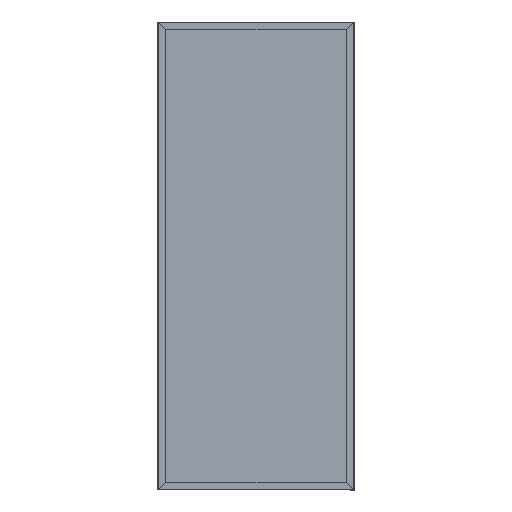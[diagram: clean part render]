
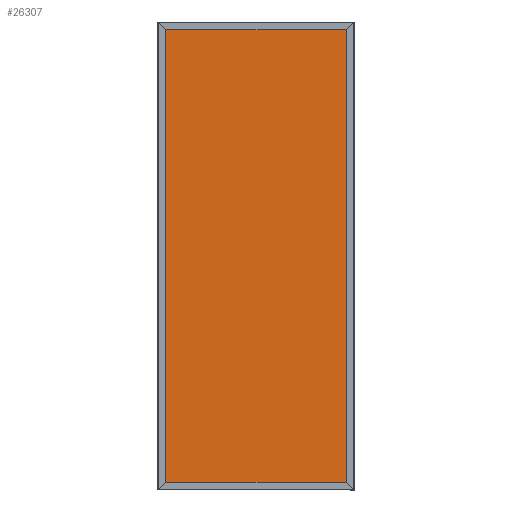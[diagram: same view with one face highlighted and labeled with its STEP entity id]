
A CAD part, top view. The second image highlights one B-rep face of the part: STEP entity #26307.
In plain terms, the highlighted planar face has unit normal (0, 0, 1).
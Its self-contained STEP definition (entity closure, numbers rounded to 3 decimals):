
#1143 = DIRECTION ( 'NONE',  ( -1., 0., 0. ) ) ;
#1513 = VECTOR ( 'NONE', #24720, 1000. ) ;
#2418 = CARTESIAN_POINT ( 'NONE',  ( 465.07, 0., -13.25 ) ) ;
#4483 = VERTEX_POINT ( 'NONE', #24362 ) ;
#6235 = VECTOR ( 'NONE', #22124, 1000. ) ;
#6571 = LINE ( 'NONE', #20481, #28058 ) ;
#6669 = VERTEX_POINT ( 'NONE', #25811 ) ;
#7083 = AXIS2_PLACEMENT_3D ( 'NONE', #33044, #10317, #1143 ) ;
#7636 = ORIENTED_EDGE ( 'NONE', *, *, #31038, .T. ) ;
#9571 = FACE_OUTER_BOUND ( 'NONE', #34448, .T. ) ;
#9956 = PLANE ( 'NONE',  #7083 ) ;
#10317 = DIRECTION ( 'NONE',  ( 0., 0., -1. ) ) ;
#10649 = CARTESIAN_POINT ( 'NONE',  ( 0., -1162.2, -13.25 ) ) ;
#12317 = CARTESIAN_POINT ( 'NONE',  ( 465.07, -1162.2, -13.25 ) ) ;
#12730 = EDGE_CURVE ( 'NONE', #4483, #29684, #27082, .T. ) ;
#12925 = CARTESIAN_POINT ( 'NONE',  ( -465.07, 1162.2, -13.25 ) ) ;
#13454 = VERTEX_POINT ( 'NONE', #12317 ) ;
#13863 = ORIENTED_EDGE ( 'NONE', *, *, #12730, .F. ) ;
#15601 = ORIENTED_EDGE ( 'NONE', *, *, #26174, .T. ) ;
#16476 = LINE ( 'NONE', #10649, #1513 ) ;
#17671 = DIRECTION ( 'NONE',  ( -1., 0., 0. ) ) ;
#20481 = CARTESIAN_POINT ( 'NONE',  ( 0., 1162.2, -13.25 ) ) ;
#21468 = DIRECTION ( 'NONE',  ( 0., 1., 0. ) ) ;
#22124 = DIRECTION ( 'NONE',  ( 0., 1., 0. ) ) ;
#24272 = CARTESIAN_POINT ( 'NONE',  ( -465.07, 0., -13.25 ) ) ;
#24362 = CARTESIAN_POINT ( 'NONE',  ( -465.07, -1162.2, -13.25 ) ) ;
#24720 = DIRECTION ( 'NONE',  ( -1., 0., 0. ) ) ;
#25500 = LINE ( 'NONE', #2418, #6235 ) ;
#25811 = CARTESIAN_POINT ( 'NONE',  ( 465.07, 1162.2, -13.25 ) ) ;
#26174 = EDGE_CURVE ( 'NONE', #6669, #29684, #6571, .T. ) ;
#26307 = ADVANCED_FACE ( 'NONE', ( #9571 ), #9956, .F. ) ;
#27082 = LINE ( 'NONE', #24272, #36674 ) ;
#28058 = VECTOR ( 'NONE', #17671, 1000. ) ;
#29684 = VERTEX_POINT ( 'NONE', #12925 ) ;
#31038 = EDGE_CURVE ( 'NONE', #13454, #6669, #25500, .T. ) ;
#32823 = ORIENTED_EDGE ( 'NONE', *, *, #33562, .F. ) ;
#33044 = CARTESIAN_POINT ( 'NONE',  ( 0., 0., -13.25 ) ) ;
#33562 = EDGE_CURVE ( 'NONE', #13454, #4483, #16476, .T. ) ;
#34448 = EDGE_LOOP ( 'NONE', ( #13863, #32823, #7636, #15601 ) ) ;
#36674 = VECTOR ( 'NONE', #21468, 1000. ) ;
